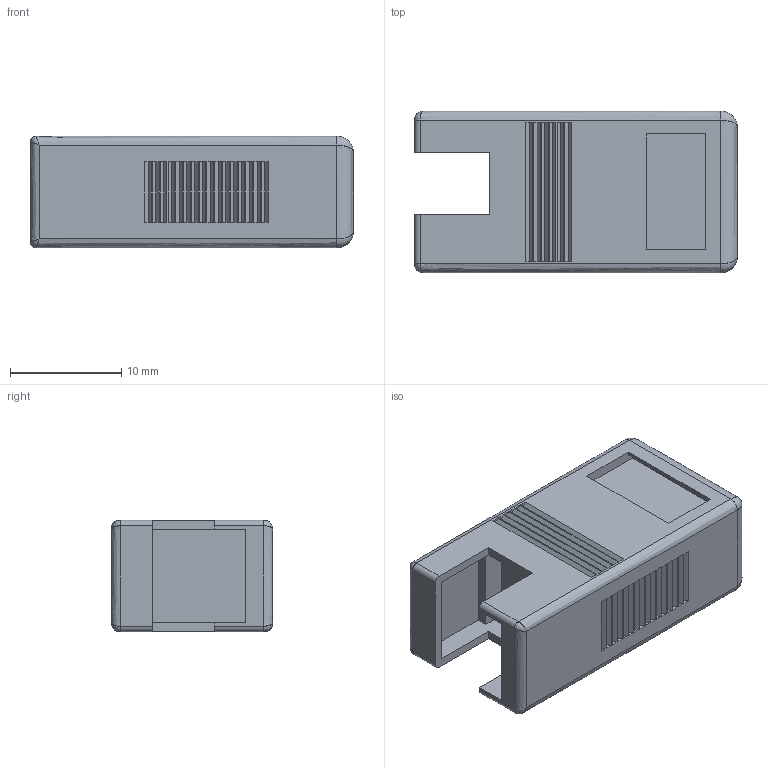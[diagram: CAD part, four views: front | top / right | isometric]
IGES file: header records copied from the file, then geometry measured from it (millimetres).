
Start section:  PTC IGES file: cu_ni-9971.igs
Global section: file name: cu_ni-9971.igs; native system: Creo Parametric by Parametric Technology Corporation; preprocessor: 2015280; author: dkendric; organization: Unknown; date: 20160314.154422; units: inch
Bounding box: 29 x 14.5 x 10.01 mm (x, y, z)
Surface area: 2253.5 mm2 (no closed solid volume)
Topology: 0 solids, 0 shells, 348 faces, 1654 edges, 1646 vertices
Faces by surface type: bspline 296, revolution 52
